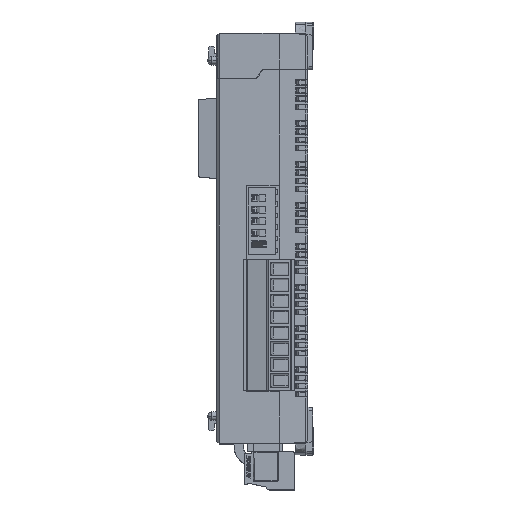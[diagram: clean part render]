
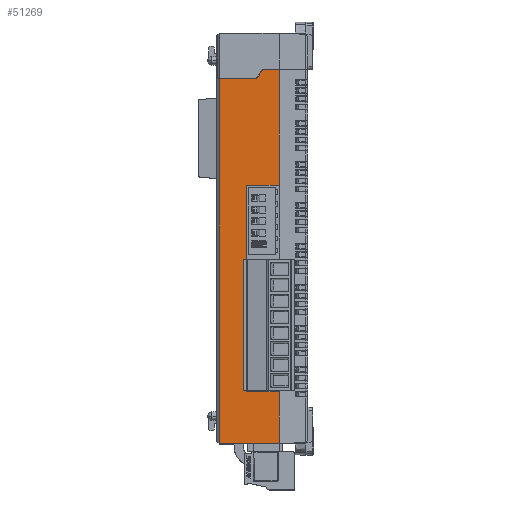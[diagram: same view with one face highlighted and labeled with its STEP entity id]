
A CAD part, top view. The second image highlights one B-rep face of the part: STEP entity #51269.
In plain terms, the highlighted planar face has unit normal (0, 0, 1).
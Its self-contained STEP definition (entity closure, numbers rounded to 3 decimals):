
#7167 = VECTOR ( 'NONE', #144630, 1000. ) ;
#8633 = DIRECTION ( 'NONE',  ( 0., -1., 0. ) ) ;
#8808 = EDGE_CURVE ( 'NONE', #27045, #127387, #27572, .T. ) ;
#11579 = CARTESIAN_POINT ( 'NONE',  ( -10.167, 36.097, 62.15 ) ) ;
#11599 = EDGE_CURVE ( 'NONE', #103294, #98868, #83850, .T. ) ;
#13224 = VERTEX_POINT ( 'NONE', #133079 ) ;
#14907 = EDGE_CURVE ( 'NONE', #98868, #146839, #88725, .T. ) ;
#15476 = VERTEX_POINT ( 'NONE', #122723 ) ;
#15599 = DIRECTION ( 'NONE',  ( 0., -1., 0. ) ) ;
#16590 = CARTESIAN_POINT ( 'NONE',  ( -9.301, 37.597, 62.15 ) ) ;
#16968 = CARTESIAN_POINT ( 'NONE',  ( -5.601, 37.597, 62.15 ) ) ;
#18177 = ORIENTED_EDGE ( 'NONE', *, *, #99432, .F. ) ;
#20514 = ORIENTED_EDGE ( 'NONE', *, *, #92447, .T. ) ;
#22225 = VERTEX_POINT ( 'NONE', #54375 ) ;
#22614 = CARTESIAN_POINT ( 'NONE',  ( -5.601, -44.403, 62.15 ) ) ;
#24917 = DIRECTION ( 'NONE',  ( 1., 0., 0. ) ) ;
#25024 = AXIS2_PLACEMENT_3D ( 'NONE', #127107, #33722, #129425 ) ;
#27045 = VERTEX_POINT ( 'NONE', #11579 ) ;
#27127 = VECTOR ( 'NONE', #15599, 1000. ) ;
#27572 = LINE ( 'NONE', #16590, #140990 ) ;
#28550 = ORIENTED_EDGE ( 'NONE', *, *, #45402, .F. ) ;
#29416 = CARTESIAN_POINT ( 'NONE',  ( -11.033, 36.597, 62.15 ) ) ;
#33722 = DIRECTION ( 'NONE',  ( 0., 0., 1. ) ) ;
#35681 = VECTOR ( 'NONE', #139475, 1000. ) ;
#37968 = CARTESIAN_POINT ( 'NONE',  ( -5.601, 37.597, 62.15 ) ) ;
#39362 = DIRECTION ( 'NONE',  ( 0.5, 0.866, 0. ) ) ;
#41520 = DIRECTION ( 'NONE',  ( 0., -1., 0. ) ) ;
#41966 = DIRECTION ( 'NONE',  ( 0., -1., 0. ) ) ;
#45099 = VECTOR ( 'NONE', #76348, 1000. ) ;
#45402 = EDGE_CURVE ( 'NONE', #22225, #15476, #147401, .T. ) ;
#47430 = VERTEX_POINT ( 'NONE', #81086 ) ;
#49037 = VECTOR ( 'NONE', #72879, 1000. ) ;
#50321 = EDGE_CURVE ( 'NONE', #127527, #146839, #53203, .T. ) ;
#50683 = ORIENTED_EDGE ( 'NONE', *, *, #14907, .T. ) ;
#51269 = ADVANCED_FACE ( 'NONE', ( #130161 ), #138845, .T. ) ;
#53203 = LINE ( 'NONE', #65746, #27127 ) ;
#53290 = CARTESIAN_POINT ( 'NONE',  ( -12.801, 12.197, 62.15 ) ) ;
#53959 = EDGE_CURVE ( 'NONE', #15476, #127527, #132350, .T. ) ;
#54375 = CARTESIAN_POINT ( 'NONE',  ( -12.801, 12.197, 62.15 ) ) ;
#57275 = DIRECTION ( 'NONE',  ( 0., 0., 1. ) ) ;
#57434 = CIRCLE ( 'NONE', #92428, 1. ) ;
#59348 = CARTESIAN_POINT ( 'NONE',  ( -5.601, 12.197, 62.15 ) ) ;
#61854 = CARTESIAN_POINT ( 'NONE',  ( -10.455, 35.597, 62.15 ) ) ;
#62940 = CARTESIAN_POINT ( 'NONE',  ( -5.601, -33.003, 62.15 ) ) ;
#64502 = ORIENTED_EDGE ( 'NONE', *, *, #151328, .F. ) ;
#65746 = CARTESIAN_POINT ( 'NONE',  ( -5.601, 45.597, 62.15 ) ) ;
#70058 = CARTESIAN_POINT ( 'NONE',  ( -9.589, 37.097, 62.15 ) ) ;
#72879 = DIRECTION ( 'NONE',  ( 0., -1., 0. ) ) ;
#73777 = ORIENTED_EDGE ( 'NONE', *, *, #93710, .F. ) ;
#76348 = DIRECTION ( 'NONE',  ( -1., 0., 0. ) ) ;
#76377 = VECTOR ( 'NONE', #41520, 1000. ) ;
#77030 = ORIENTED_EDGE ( 'NONE', *, *, #11599, .T. ) ;
#78628 = VERTEX_POINT ( 'NONE', #59348 ) ;
#79916 = AXIS2_PLACEMENT_3D ( 'NONE', #141930, #57275, #8633 ) ;
#81086 = CARTESIAN_POINT ( 'NONE',  ( -8.723, 37.597, 62.15 ) ) ;
#82623 = EDGE_CURVE ( 'NONE', #47430, #136870, #98309, .T. ) ;
#83850 = LINE ( 'NONE', #108940, #49037 ) ;
#83958 = ORIENTED_EDGE ( 'NONE', *, *, #82623, .F. ) ;
#86938 = VECTOR ( 'NONE', #138885, 1000. ) ;
#87473 = ORIENTED_EDGE ( 'NONE', *, *, #53959, .F. ) ;
#88153 = EDGE_LOOP ( 'NONE', ( #73777, #64502, #83958, #119117, #134785, #20514, #18177, #77030, #50683, #134313, #87473, #28550 ) ) ;
#88725 = LINE ( 'NONE', #112293, #86938 ) ;
#92428 = AXIS2_PLACEMENT_3D ( 'NONE', #29416, #149360, #41966 ) ;
#92447 = EDGE_CURVE ( 'NONE', #27045, #13224, #57434, .T. ) ;
#93710 = EDGE_CURVE ( 'NONE', #78628, #22225, #96817, .T. ) ;
#96817 = LINE ( 'NONE', #97581, #45099 ) ;
#97581 = CARTESIAN_POINT ( 'NONE',  ( -12.801, 12.197, 62.15 ) ) ;
#98309 = LINE ( 'NONE', #37968, #7167 ) ;
#98868 = VERTEX_POINT ( 'NONE', #120060 ) ;
#99432 = EDGE_CURVE ( 'NONE', #103294, #13224, #111193, .T. ) ;
#101776 = VECTOR ( 'NONE', #120648, 1000. ) ;
#103294 = VERTEX_POINT ( 'NONE', #107736 ) ;
#103381 = LINE ( 'NONE', #151207, #35681 ) ;
#107736 = CARTESIAN_POINT ( 'NONE',  ( -18.801, 35.597, 62.15 ) ) ;
#108940 = CARTESIAN_POINT ( 'NONE',  ( -18.801, -44.403, 62.15 ) ) ;
#111193 = LINE ( 'NONE', #61854, #101776 ) ;
#112293 = CARTESIAN_POINT ( 'NONE',  ( -19.301, -44.403, 62.15 ) ) ;
#119117 = ORIENTED_EDGE ( 'NONE', *, *, #149734, .T. ) ;
#120060 = CARTESIAN_POINT ( 'NONE',  ( -18.801, -44.403, 62.15 ) ) ;
#120648 = DIRECTION ( 'NONE',  ( 1., 0., 0. ) ) ;
#121351 = CARTESIAN_POINT ( 'NONE',  ( -12.801, -33.003, 62.15 ) ) ;
#122723 = CARTESIAN_POINT ( 'NONE',  ( -12.801, -33.003, 62.15 ) ) ;
#127107 = CARTESIAN_POINT ( 'NONE',  ( -8.723, 36.597, 62.15 ) ) ;
#127387 = VERTEX_POINT ( 'NONE', #70058 ) ;
#127527 = VERTEX_POINT ( 'NONE', #62940 ) ;
#127597 = VECTOR ( 'NONE', #24917, 1000. ) ;
#129425 = DIRECTION ( 'NONE',  ( 0., -1., 0. ) ) ;
#130105 = CIRCLE ( 'NONE', #25024, 1. ) ;
#130161 = FACE_OUTER_BOUND ( 'NONE', #88153, .T. ) ;
#132350 = LINE ( 'NONE', #121351, #127597 ) ;
#133079 = CARTESIAN_POINT ( 'NONE',  ( -11.033, 35.597, 62.15 ) ) ;
#134313 = ORIENTED_EDGE ( 'NONE', *, *, #50321, .F. ) ;
#134785 = ORIENTED_EDGE ( 'NONE', *, *, #8808, .F. ) ;
#136870 = VERTEX_POINT ( 'NONE', #16968 ) ;
#138845 = PLANE ( 'NONE',  #79916 ) ;
#138885 = DIRECTION ( 'NONE',  ( 1., 0., 0. ) ) ;
#139475 = DIRECTION ( 'NONE',  ( 0., -1., 0. ) ) ;
#140990 = VECTOR ( 'NONE', #39362, 1000. ) ;
#141930 = CARTESIAN_POINT ( 'NONE',  ( -19.301, 45.597, 62.15 ) ) ;
#144630 = DIRECTION ( 'NONE',  ( 1., 0., 0. ) ) ;
#146839 = VERTEX_POINT ( 'NONE', #22614 ) ;
#147401 = LINE ( 'NONE', #53290, #76377 ) ;
#149360 = DIRECTION ( 'NONE',  ( 0., 0., -1. ) ) ;
#149734 = EDGE_CURVE ( 'NONE', #47430, #127387, #130105, .T. ) ;
#151207 = CARTESIAN_POINT ( 'NONE',  ( -5.601, 0.597, 62.15 ) ) ;
#151328 = EDGE_CURVE ( 'NONE', #136870, #78628, #103381, .T. ) ;
